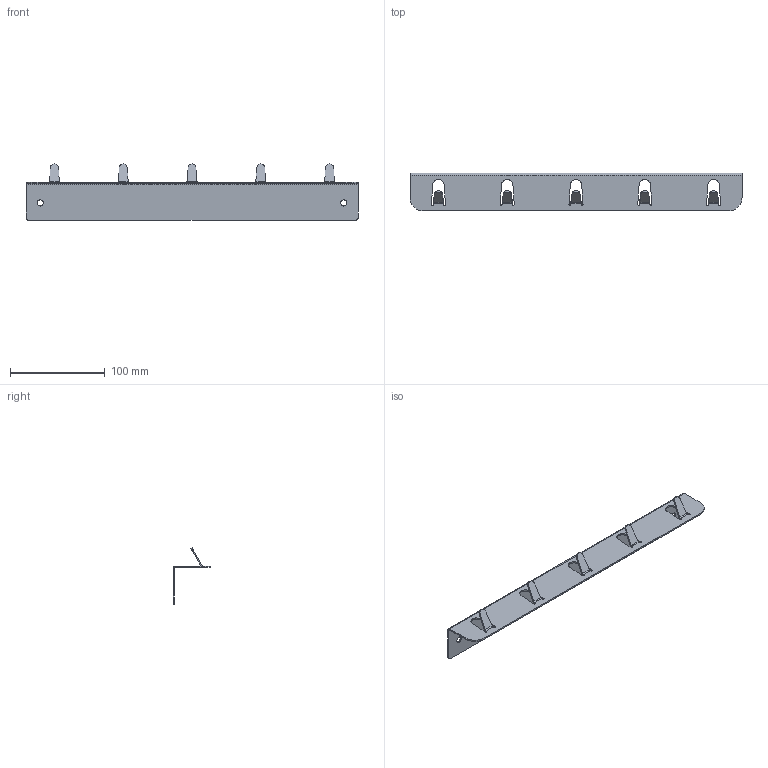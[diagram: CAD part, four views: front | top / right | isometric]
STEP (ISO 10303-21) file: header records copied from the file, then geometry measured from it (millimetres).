
FILE_DESCRIPTION((''),'2;1');
FILE_NAME('674556','2022-07-18T09:41:23',('1ke04'),('Kesseboehmer'),'CREO PARAMETRIC BY PTC INC, 2020184','CREO PARAMETRIC BY PTC INC, 2020184','');
FILE_SCHEMA(('AUTOMOTIVE_DESIGN { 1 0 10303 214 1 1 1 1 }'));
Length unit declared in the file: millimetre
Products named in the file (1): 674556
Bounding box: 350 x 40 x 59.07 mm (x, y, z)
Volume: 39741.1 mm3; surface area: 55208.5 mm2
Topology: 1 solids, 1 shells, 122 faces, 312 edges, 196 vertices
Faces by surface type: plane 62, cylinder 50, bspline 10
Entity records: 4754 total; most frequent: CARTESIAN_POINT 1079, DIRECTION 632, ORIENTED_EDGE 624, EDGE_CURVE 312, VECTOR 215, LINE 215, AXIS2_PLACEMENT_3D 207, COLOUR_RGB 193
